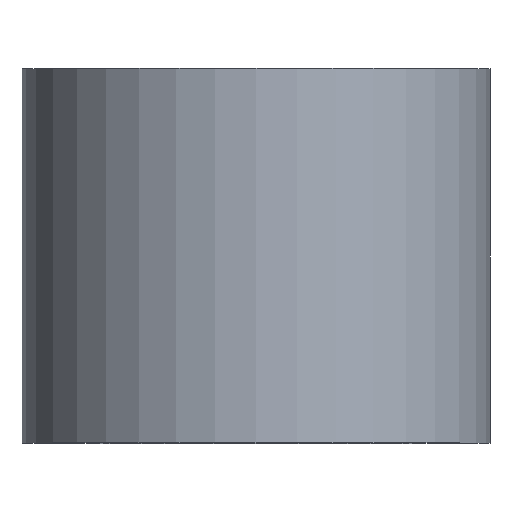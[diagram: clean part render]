
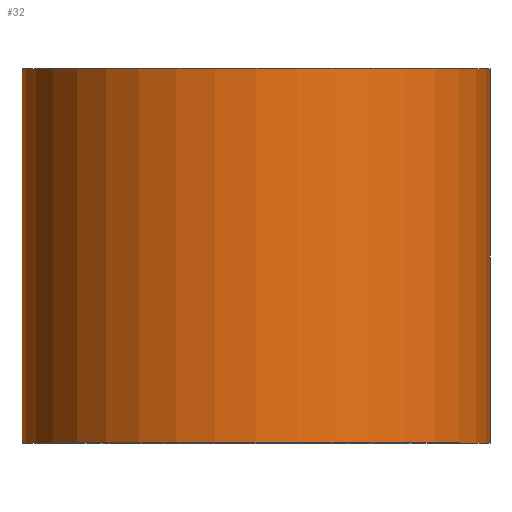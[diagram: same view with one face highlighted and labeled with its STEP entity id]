
A CAD part, top view. The second image highlights one B-rep face of the part: STEP entity #32.
In plain terms, the highlighted cylindrical face has radius 7.5 mm (diameter 15 mm), a partial arc.
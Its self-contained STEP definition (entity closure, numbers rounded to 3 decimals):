
#32 = ADVANCED_FACE ( 'NONE', ( #104 ), #49, .T. ) ;
#36 = DIRECTION ( 'NONE',  ( 0., 1., 0. ) ) ;
#45 = LINE ( 'NONE', #256, #212 ) ;
#48 = ORIENTED_EDGE ( 'NONE', *, *, #252, .T. ) ;
#49 = CYLINDRICAL_SURFACE ( 'NONE', #190, 7.5 ) ;
#56 = DIRECTION ( 'NONE',  ( -1., 0., 0. ) ) ;
#58 = DIRECTION ( 'NONE',  ( 0., 1., 0. ) ) ;
#60 = AXIS2_PLACEMENT_3D ( 'NONE', #230, #36, #56 ) ;
#64 = VERTEX_POINT ( 'NONE', #291 ) ;
#70 = VECTOR ( 'NONE', #124, 1000. ) ;
#71 = DIRECTION ( 'NONE',  ( -1., 0., 0. ) ) ;
#73 = CARTESIAN_POINT ( 'NONE',  ( 7.5, 12., 0. ) ) ;
#78 = DIRECTION ( 'NONE',  ( -1., 0., 0. ) ) ;
#88 = LINE ( 'NONE', #233, #70 ) ;
#96 = AXIS2_PLACEMENT_3D ( 'NONE', #204, #58, #78 ) ;
#99 = DIRECTION ( 'NONE',  ( 0., 1., 0. ) ) ;
#104 = FACE_OUTER_BOUND ( 'NONE', #257, .T. ) ;
#117 = VERTEX_POINT ( 'NONE', #73 ) ;
#124 = DIRECTION ( 'NONE',  ( 0., 1., 0. ) ) ;
#125 = VERTEX_POINT ( 'NONE', #140 ) ;
#126 = CARTESIAN_POINT ( 'NONE',  ( -7.5, 12., 0. ) ) ;
#140 = CARTESIAN_POINT ( 'NONE',  ( -7.5, 0., 0. ) ) ;
#183 = EDGE_CURVE ( 'NONE', #125, #64, #225, .T. ) ;
#189 = EDGE_CURVE ( 'NONE', #125, #244, #88, .T. ) ;
#190 = AXIS2_PLACEMENT_3D ( 'NONE', #219, #247, #71 ) ;
#195 = ORIENTED_EDGE ( 'NONE', *, *, #189, .F. ) ;
#204 = CARTESIAN_POINT ( 'NONE',  ( 0., 12., 0. ) ) ;
#212 = VECTOR ( 'NONE', #99, 1000. ) ;
#219 = CARTESIAN_POINT ( 'NONE',  ( 0., 0., 0. ) ) ;
#225 = CIRCLE ( 'NONE', #60, 7.5 ) ;
#230 = CARTESIAN_POINT ( 'NONE',  ( 0., 0., 0. ) ) ;
#233 = CARTESIAN_POINT ( 'NONE',  ( -7.5, 0., 0. ) ) ;
#240 = EDGE_CURVE ( 'NONE', #244, #117, #277, .T. ) ;
#244 = VERTEX_POINT ( 'NONE', #126 ) ;
#247 = DIRECTION ( 'NONE',  ( 0., 1., 0. ) ) ;
#252 = EDGE_CURVE ( 'NONE', #64, #117, #45, .T. ) ;
#256 = CARTESIAN_POINT ( 'NONE',  ( 7.5, 0., 0. ) ) ;
#257 = EDGE_LOOP ( 'NONE', ( #269, #48, #295, #195 ) ) ;
#269 = ORIENTED_EDGE ( 'NONE', *, *, #183, .T. ) ;
#277 = CIRCLE ( 'NONE', #96, 7.5 ) ;
#291 = CARTESIAN_POINT ( 'NONE',  ( 7.5, 0., 0. ) ) ;
#295 = ORIENTED_EDGE ( 'NONE', *, *, #240, .F. ) ;
